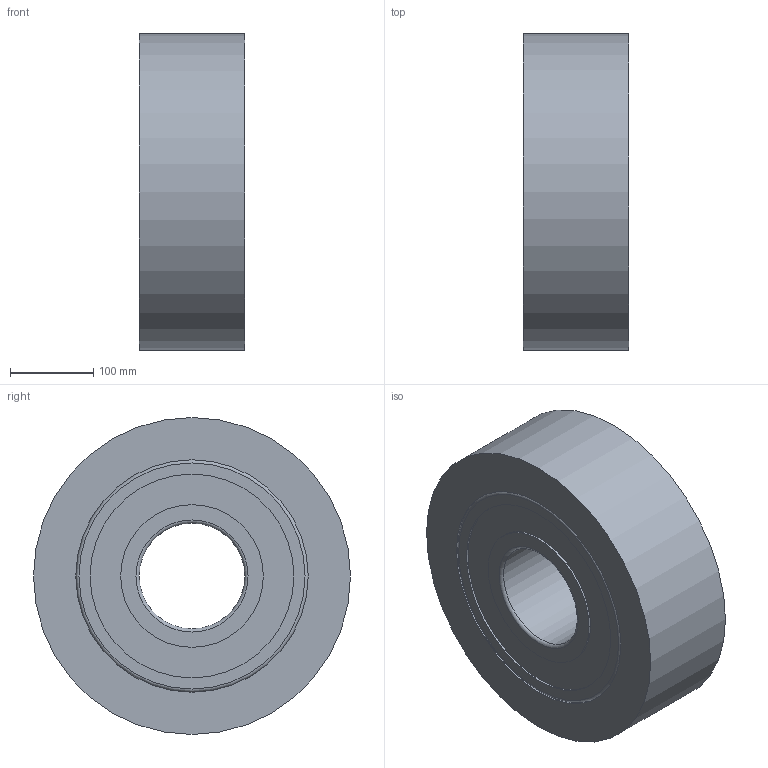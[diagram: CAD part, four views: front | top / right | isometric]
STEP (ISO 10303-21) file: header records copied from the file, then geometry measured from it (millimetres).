
FILE_DESCRIPTION((''),'1');
FILE_NAME('H:/図庫/国内ﾕﾆｯﾄ/ｶﾀﾛｸﾞ/ｺﾞﾑ直巻/ホームページ用ＣＡＤ図面/update用/3', '2017-07-14T08:53:29',(''), (''), 'KCM Version 1.1.1442.0', 'Kubotek KeyCreator', '');
FILE_SCHEMA(('AUTOMOTIVE_DESIGN'));
Length unit declared in the file: inch
Bounding box: 127 x 381 x 381 mm (x, y, z)
Surface area: 421215.4 mm2 (no closed solid volume)
Topology: 0 solids, 20 shells, 20 faces, 68 edges, 56 vertices
Faces by surface type: cylinder 8, plane 8, torus 4
Full cylindrical faces by diameter (mm): 127 x1, 171.45 x2, 245.11 x2, 279.4 x2, 381 x1
Entity records: 790 total; most frequent: DIRECTION 154, CARTESIAN_POINT 137, ORIENTED_EDGE 80, AXIS2_PLACEMENT_3D 73, EDGE_CURVE 68, VERTEX_POINT 56, CIRCLE 52, EDGE_LOOP 28
